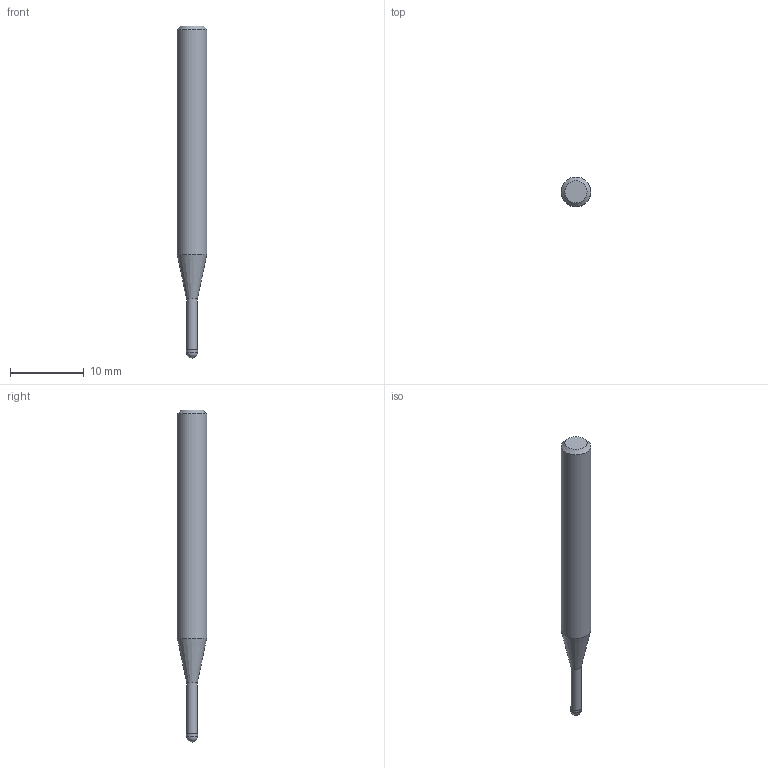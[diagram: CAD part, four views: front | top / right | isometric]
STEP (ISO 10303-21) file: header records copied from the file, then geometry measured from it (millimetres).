
FILE_DESCRIPTION((''),'2;1');
FILE_NAME('C:\Users\nsx150\AppData\Local\Temp\Mastercam 2021\3SYKECWX22\TEMP.step','2021-04-22T10:03:16',(''),(''),'STEP Write','Mastercam 2021 ... CNC Software, Inc.','');
FILE_SCHEMA(('AUTOMOTIVE_DESIGN'));
Length unit declared in the file: millimetre
Products named in the file (1): None
Bounding box: 4 x 4 x 45 mm (x, y, z)
Volume: 438.6 mm3; surface area: 490.7 mm2
Topology: 2 solids, 2 shells, 9 faces, 14 edges, 8 vertices
Faces by surface type: plane 3, cylinder 3, cone 2, sphere 1
Full cylindrical faces by diameter (mm): 1.45 x1, 1.5 x1, 4 x1
Entity records: 211 total; most frequent: DIRECTION 36, CARTESIAN_POINT 25, AXIS2_PLACEMENT_3D 18, ORIENTED_EDGE 14, EDGE_LOOP 14, STYLED_ITEM 12, ADVANCED_FACE 9, FACE_BOUND 8
